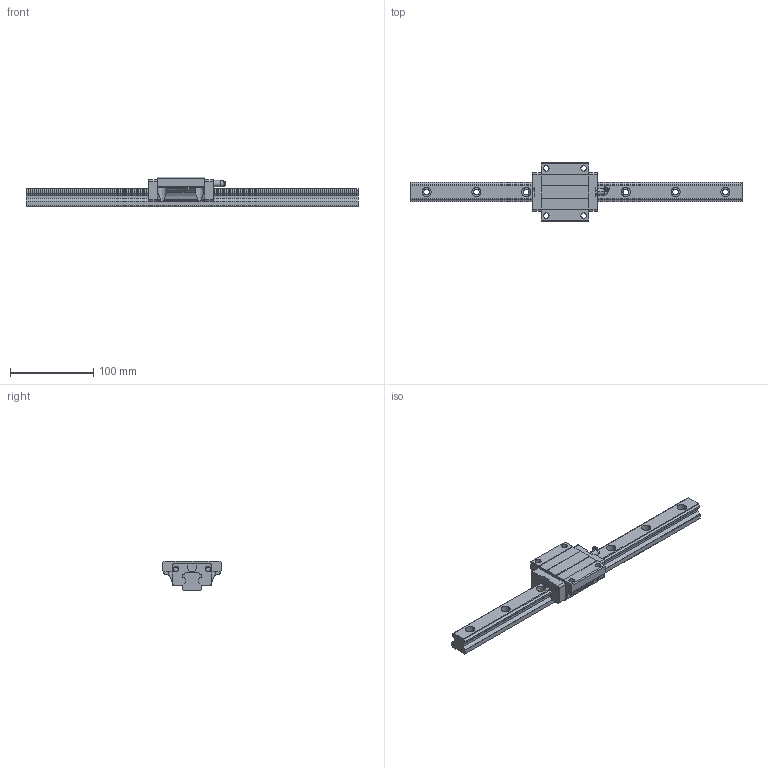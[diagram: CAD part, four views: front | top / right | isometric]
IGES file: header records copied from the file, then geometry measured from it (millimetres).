
Global section: file name: No Iges File Name specified; native system: AutoDesk Inventor R10; preprocessor: AutoDesk Inventor Iges Exporter R10; author: No Author specified; organization: No Organization specified; date: 20101222.163842; units: millimetre
Bounding box: 400 x 70 x 36 mm (x, y, z)
Surface area: 62167.5 mm2 (no closed solid volume)
Topology: 0 solids, 0 shells, 251 faces, 1731 edges, 1719 vertices
Faces by surface type: bspline 251
